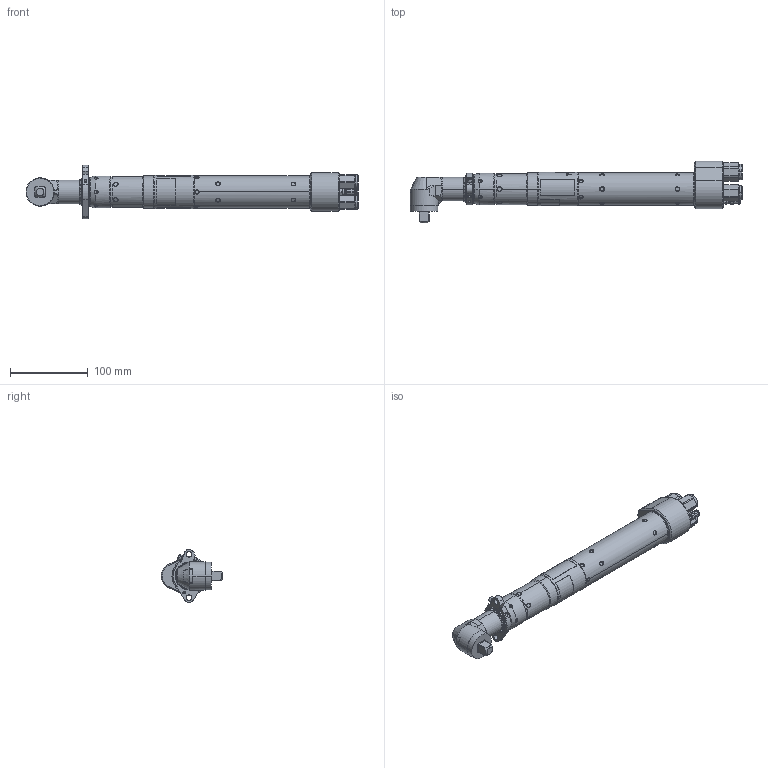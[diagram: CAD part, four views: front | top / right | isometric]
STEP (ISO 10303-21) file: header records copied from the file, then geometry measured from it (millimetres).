
FILE_DESCRIPTION((''),'2;1');
FILE_NAME('PRT0001','2019-04-11T18:12:45',('ccbyut'),(''),'CREO PARAMETRIC BY PTC INC, 2018420','CREO PARAMETRIC BY PTC INC, 2018420','');
FILE_SCHEMA(('CONFIG_CONTROL_DESIGN'));
Products named in the file (1): PRT0001
Bounding box: 425.99 x 79.5 x 68.26 mm (x, y, z)
Volume: 576946 mm3; surface area: 70437.1 mm2
Topology: 1 solids, 4 shells, 1126 faces, 3950 edges, 2671 vertices
Faces by surface type: cylinder 451, extrusion 309, plane 148, cone 127, torus 82, bspline 9
Entity records: 72163 total; most frequent: CARTESIAN_POINT 40116, ORIENTED_EDGE 7896, DIRECTION 5205, EDGE_CURVE 3948, VERTEX_POINT 2671, B_SPLINE_CURVE_WITH_KNOTS 1978, AXIS2_PLACEMENT_3D 1809, VECTOR 1587
